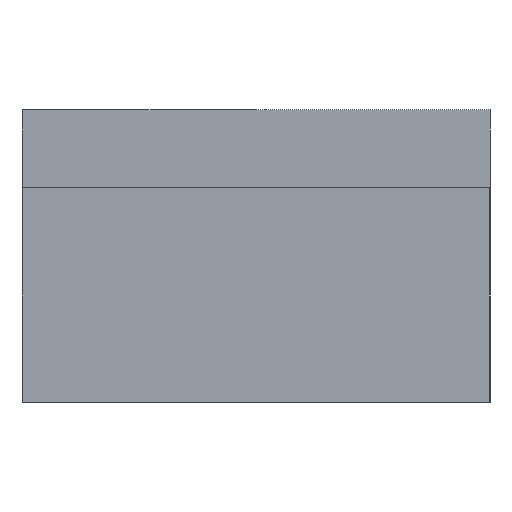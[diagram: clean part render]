
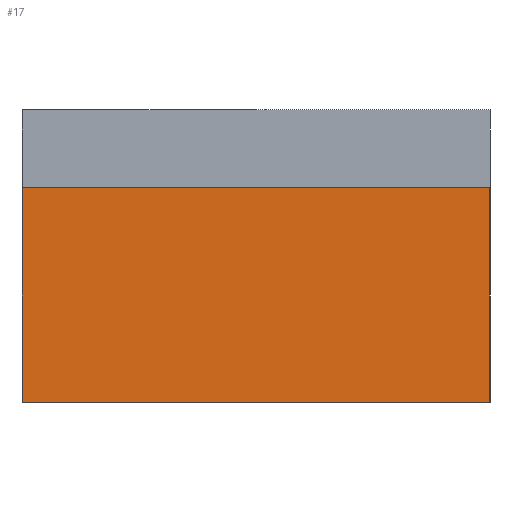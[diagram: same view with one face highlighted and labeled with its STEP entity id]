
A CAD part, left-side view. The second image highlights one B-rep face of the part: STEP entity #17.
In plain terms, the highlighted planar face has unit normal (-1, 0, 0).
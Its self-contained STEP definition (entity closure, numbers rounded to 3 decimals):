
#17 = ADVANCED_FACE('',(#18),#32,.F.);
#18 = FACE_BOUND('',#19,.F.);
#19 = EDGE_LOOP('',(#20,#55,#81,#109));
#20 = ORIENTED_EDGE('',*,*,#21,.T.);
#21 = EDGE_CURVE('',#22,#24,#26,.T.);
#22 = VERTEX_POINT('',#23);
#23 = CARTESIAN_POINT('',(0.55,5.99,0.));
#24 = VERTEX_POINT('',#25);
#25 = CARTESIAN_POINT('',(0.55,5.99,2.75));
#26 = SURFACE_CURVE('',#27,(#31,#43),.PCURVE_S1.);
#27 = LINE('',#28,#29);
#28 = CARTESIAN_POINT('',(0.55,5.99,0.));
#29 = VECTOR('',#30,1.);
#30 = DIRECTION('',(0.,0.,1.));
#31 = PCURVE('',#32,#37);
#32 = PLANE('',#33);
#33 = AXIS2_PLACEMENT_3D('',#34,#35,#36);
#34 = CARTESIAN_POINT('',(0.55,-0.01,0.));
#35 = DIRECTION('',(1.,0.,0.));
#36 = DIRECTION('',(0.,0.,1.));
#37 = DEFINITIONAL_REPRESENTATION('',(#38),#42);
#38 = LINE('',#39,#40);
#39 = CARTESIAN_POINT('',(0.,-6.));
#40 = VECTOR('',#41,1.);
#41 = DIRECTION('',(1.,0.));
#42 = ( GEOMETRIC_REPRESENTATION_CONTEXT(2) 
PARAMETRIC_REPRESENTATION_CONTEXT() REPRESENTATION_CONTEXT('2D SPACE',''
  ) );
#43 = PCURVE('',#44,#49);
#44 = PLANE('',#45);
#45 = AXIS2_PLACEMENT_3D('',#46,#47,#48);
#46 = CARTESIAN_POINT('',(0.55,5.99,0.));
#47 = DIRECTION('',(0.,1.,0.));
#48 = DIRECTION('',(0.,0.,1.));
#49 = DEFINITIONAL_REPRESENTATION('',(#50),#54);
#50 = LINE('',#51,#52);
#51 = CARTESIAN_POINT('',(0.,0.));
#52 = VECTOR('',#53,1.);
#53 = DIRECTION('',(1.,0.));
#54 = ( GEOMETRIC_REPRESENTATION_CONTEXT(2) 
PARAMETRIC_REPRESENTATION_CONTEXT() REPRESENTATION_CONTEXT('2D SPACE',''
  ) );
#55 = ORIENTED_EDGE('',*,*,#56,.T.);
#56 = EDGE_CURVE('',#24,#57,#59,.T.);
#57 = VERTEX_POINT('',#58);
#58 = CARTESIAN_POINT('',(0.55,-0.01,2.75));
#59 = SURFACE_CURVE('',#60,(#64,#70),.PCURVE_S1.);
#60 = LINE('',#61,#62);
#61 = CARTESIAN_POINT('',(0.55,-0.03,2.75));
#62 = VECTOR('',#63,1.);
#63 = DIRECTION('',(0.,-1.,0.));
#64 = PCURVE('',#32,#65);
#65 = DEFINITIONAL_REPRESENTATION('',(#66),#69);
#66 = B_SPLINE_CURVE_WITH_KNOTS('',1,(#67,#68),.UNSPECIFIED.,.F.,.F.,(2,
    2),(-6.02,-0.02),.PIECEWISE_BEZIER_KNOTS.);
#67 = CARTESIAN_POINT('',(2.75,-6.));
#68 = CARTESIAN_POINT('',(2.75,0.));
#69 = ( GEOMETRIC_REPRESENTATION_CONTEXT(2) 
PARAMETRIC_REPRESENTATION_CONTEXT() REPRESENTATION_CONTEXT('2D SPACE',''
  ) );
#70 = PCURVE('',#71,#76);
#71 = PLANE('',#72);
#72 = AXIS2_PLACEMENT_3D('',#73,#74,#75);
#73 = CARTESIAN_POINT('',(-0.32,-0.05,2.75));
#74 = DIRECTION('',(0.,0.,1.));
#75 = DIRECTION('',(1.,0.,0.));
#76 = DEFINITIONAL_REPRESENTATION('',(#77),#80);
#77 = B_SPLINE_CURVE_WITH_KNOTS('',1,(#78,#79),.UNSPECIFIED.,.F.,.F.,(2,
    2),(-6.02,-0.02),.PIECEWISE_BEZIER_KNOTS.);
#78 = CARTESIAN_POINT('',(0.87,6.04));
#79 = CARTESIAN_POINT('',(0.87,0.04));
#80 = ( GEOMETRIC_REPRESENTATION_CONTEXT(2) 
PARAMETRIC_REPRESENTATION_CONTEXT() REPRESENTATION_CONTEXT('2D SPACE',''
  ) );
#81 = ORIENTED_EDGE('',*,*,#82,.F.);
#82 = EDGE_CURVE('',#83,#57,#85,.T.);
#83 = VERTEX_POINT('',#84);
#84 = CARTESIAN_POINT('',(0.55,-0.01,0.));
#85 = SURFACE_CURVE('',#86,(#90,#97),.PCURVE_S1.);
#86 = LINE('',#87,#88);
#87 = CARTESIAN_POINT('',(0.55,-0.01,0.));
#88 = VECTOR('',#89,1.);
#89 = DIRECTION('',(0.,0.,1.));
#90 = PCURVE('',#32,#91);
#91 = DEFINITIONAL_REPRESENTATION('',(#92),#96);
#92 = LINE('',#93,#94);
#93 = CARTESIAN_POINT('',(0.,0.));
#94 = VECTOR('',#95,1.);
#95 = DIRECTION('',(1.,0.));
#96 = ( GEOMETRIC_REPRESENTATION_CONTEXT(2) 
PARAMETRIC_REPRESENTATION_CONTEXT() REPRESENTATION_CONTEXT('2D SPACE',''
  ) );
#97 = PCURVE('',#98,#103);
#98 = PLANE('',#99);
#99 = AXIS2_PLACEMENT_3D('',#100,#101,#102);
#100 = CARTESIAN_POINT('',(0.55,-0.01,0.));
#101 = DIRECTION('',(0.,1.,0.));
#102 = DIRECTION('',(0.,0.,1.));
#103 = DEFINITIONAL_REPRESENTATION('',(#104),#108);
#104 = LINE('',#105,#106);
#105 = CARTESIAN_POINT('',(0.,0.));
#106 = VECTOR('',#107,1.);
#107 = DIRECTION('',(1.,0.));
#108 = ( GEOMETRIC_REPRESENTATION_CONTEXT(2) 
PARAMETRIC_REPRESENTATION_CONTEXT() REPRESENTATION_CONTEXT('2D SPACE',''
  ) );
#109 = ORIENTED_EDGE('',*,*,#110,.T.);
#110 = EDGE_CURVE('',#83,#22,#111,.T.);
#111 = SURFACE_CURVE('',#112,(#116,#123),.PCURVE_S1.);
#112 = LINE('',#113,#114);
#113 = CARTESIAN_POINT('',(0.55,-0.01,0.));
#114 = VECTOR('',#115,1.);
#115 = DIRECTION('',(0.,1.,0.));
#116 = PCURVE('',#32,#117);
#117 = DEFINITIONAL_REPRESENTATION('',(#118),#122);
#118 = LINE('',#119,#120);
#119 = CARTESIAN_POINT('',(0.,0.));
#120 = VECTOR('',#121,1.);
#121 = DIRECTION('',(0.,-1.));
#122 = ( GEOMETRIC_REPRESENTATION_CONTEXT(2) 
PARAMETRIC_REPRESENTATION_CONTEXT() REPRESENTATION_CONTEXT('2D SPACE',''
  ) );
#123 = PCURVE('',#124,#129);
#124 = PLANE('',#125);
#125 = AXIS2_PLACEMENT_3D('',#126,#127,#128);
#126 = CARTESIAN_POINT('',(0.55,-0.01,0.));
#127 = DIRECTION('',(0.,0.,1.));
#128 = DIRECTION('',(1.,0.,0.));
#129 = DEFINITIONAL_REPRESENTATION('',(#130),#134);
#130 = LINE('',#131,#132);
#131 = CARTESIAN_POINT('',(0.,0.));
#132 = VECTOR('',#133,1.);
#133 = DIRECTION('',(0.,1.));
#134 = ( GEOMETRIC_REPRESENTATION_CONTEXT(2) 
PARAMETRIC_REPRESENTATION_CONTEXT() REPRESENTATION_CONTEXT('2D SPACE',''
  ) );
